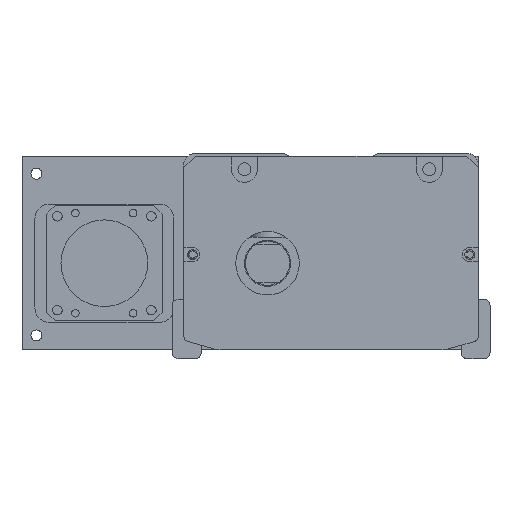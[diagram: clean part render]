
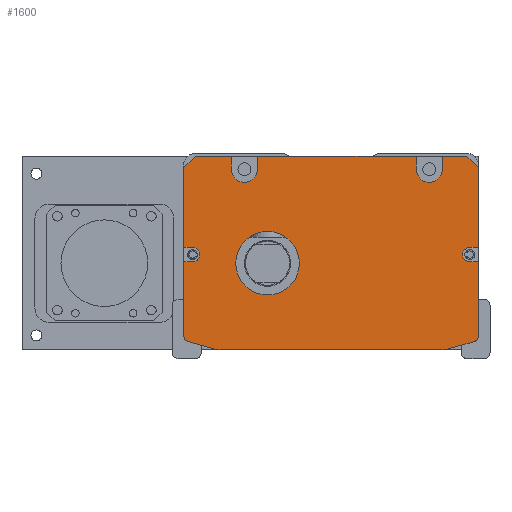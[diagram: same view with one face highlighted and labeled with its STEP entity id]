
A CAD part, front view. The second image highlights one B-rep face of the part: STEP entity #1600.
In plain terms, the highlighted planar face has unit normal (0, -1, 0).
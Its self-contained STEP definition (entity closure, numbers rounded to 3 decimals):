
#465=FACE_BOUND('',#3306,.T.);
#466=FACE_BOUND('',#3307,.T.);
#1600=ADVANCED_FACE('',(#465,#466),#2262,.F.);
#2262=PLANE('',#13297);
#3306=EDGE_LOOP('',(#5814,#5815,#5816,#5817,#5818,#5819,#5820,#5821,#5822,
#5823,#5824,#5825,#5826,#5827,#5828,#5829,#5830,#5831,#5832,#5833,#5834,
#5835,#5836,#5837,#5838,#5839,#5840,#5841));
#3307=EDGE_LOOP('',(#5842));
#4302=CIRCLE('',#13288,4.5);
#4303=CIRCLE('',#13289,4.5);
#4304=CIRCLE('',#13290,2.5);
#4305=CIRCLE('',#13291,2.);
#4306=CIRCLE('',#13292,10.);
#4307=CIRCLE('',#13293,10.);
#4308=CIRCLE('',#13294,2.);
#4309=CIRCLE('',#13295,2.5);
#4310=CIRCLE('',#13296,11.);
#5814=ORIENTED_EDGE('',*,*,#9591,.T.);
#5815=ORIENTED_EDGE('',*,*,#10102,.T.);
#5816=ORIENTED_EDGE('',*,*,#10103,.T.);
#5817=ORIENTED_EDGE('',*,*,#10104,.F.);
#5818=ORIENTED_EDGE('',*,*,#10105,.T.);
#5819=ORIENTED_EDGE('',*,*,#10106,.F.);
#5820=ORIENTED_EDGE('',*,*,#10107,.T.);
#5821=ORIENTED_EDGE('',*,*,#10108,.F.);
#5822=ORIENTED_EDGE('',*,*,#10109,.T.);
#5823=ORIENTED_EDGE('',*,*,#10110,.F.);
#5824=ORIENTED_EDGE('',*,*,#10111,.T.);
#5825=ORIENTED_EDGE('',*,*,#10112,.T.);
#5826=ORIENTED_EDGE('',*,*,#9609,.T.);
#5827=ORIENTED_EDGE('',*,*,#10113,.T.);
#5828=ORIENTED_EDGE('',*,*,#10114,.T.);
#5829=ORIENTED_EDGE('',*,*,#10115,.T.);
#5830=ORIENTED_EDGE('',*,*,#9605,.T.);
#5831=ORIENTED_EDGE('',*,*,#10116,.T.);
#5832=ORIENTED_EDGE('',*,*,#10117,.T.);
#5833=ORIENTED_EDGE('',*,*,#10118,.T.);
#5834=ORIENTED_EDGE('',*,*,#10119,.T.);
#5835=ORIENTED_EDGE('',*,*,#10120,.T.);
#5836=ORIENTED_EDGE('',*,*,#10121,.T.);
#5837=ORIENTED_EDGE('',*,*,#10122,.T.);
#5838=ORIENTED_EDGE('',*,*,#9595,.T.);
#5839=ORIENTED_EDGE('',*,*,#10123,.T.);
#5840=ORIENTED_EDGE('',*,*,#10124,.T.);
#5841=ORIENTED_EDGE('',*,*,#10125,.T.);
#5842=ORIENTED_EDGE('',*,*,#10126,.T.);
#8359=VERTEX_POINT('',#18272);
#8360=VERTEX_POINT('',#18274);
#8363=VERTEX_POINT('',#18280);
#8364=VERTEX_POINT('',#18282);
#8373=VERTEX_POINT('',#18301);
#8374=VERTEX_POINT('',#18303);
#8377=VERTEX_POINT('',#18309);
#8378=VERTEX_POINT('',#18311);
#8720=VERTEX_POINT('',#19350);
#8721=VERTEX_POINT('',#19352);
#8722=VERTEX_POINT('',#19354);
#8723=VERTEX_POINT('',#19356);
#8724=VERTEX_POINT('',#19358);
#8725=VERTEX_POINT('',#19360);
#8726=VERTEX_POINT('',#19362);
#8727=VERTEX_POINT('',#19364);
#8728=VERTEX_POINT('',#19366);
#8729=VERTEX_POINT('',#19368);
#8730=VERTEX_POINT('',#19371);
#8731=VERTEX_POINT('',#19373);
#8732=VERTEX_POINT('',#19376);
#8733=VERTEX_POINT('',#19378);
#8734=VERTEX_POINT('',#19380);
#8735=VERTEX_POINT('',#19382);
#8736=VERTEX_POINT('',#19384);
#8737=VERTEX_POINT('',#19386);
#8738=VERTEX_POINT('',#19389);
#8739=VERTEX_POINT('',#19391);
#8740=VERTEX_POINT('',#19394);
#9591=EDGE_CURVE('',#8360,#8359,#11291,.T.);
#9595=EDGE_CURVE('',#8364,#8363,#11295,.T.);
#9605=EDGE_CURVE('',#8374,#8373,#11305,.T.);
#9609=EDGE_CURVE('',#8378,#8377,#11309,.T.);
#10102=EDGE_CURVE('',#8359,#8720,#11589,.T.);
#10103=EDGE_CURVE('',#8720,#8721,#11590,.T.);
#10104=EDGE_CURVE('',#8722,#8721,#11591,.T.);
#10105=EDGE_CURVE('',#8722,#8723,#4302,.T.);
#10106=EDGE_CURVE('',#8724,#8723,#11592,.T.);
#10107=EDGE_CURVE('',#8724,#8725,#11593,.T.);
#10108=EDGE_CURVE('',#8726,#8725,#11594,.T.);
#10109=EDGE_CURVE('',#8726,#8727,#4303,.T.);
#10110=EDGE_CURVE('',#8728,#8727,#11595,.T.);
#10111=EDGE_CURVE('',#8728,#8729,#11596,.T.);
#10112=EDGE_CURVE('',#8729,#8378,#11597,.T.);
#10113=EDGE_CURVE('',#8377,#8730,#11598,.T.);
#10114=EDGE_CURVE('',#8730,#8731,#4304,.T.);
#10115=EDGE_CURVE('',#8731,#8374,#11599,.T.);
#10116=EDGE_CURVE('',#8373,#8732,#4305,.T.);
#10117=EDGE_CURVE('',#8732,#8733,#11600,.T.);
#10118=EDGE_CURVE('',#8733,#8734,#4306,.T.);
#10119=EDGE_CURVE('',#8734,#8735,#11601,.T.);
#10120=EDGE_CURVE('',#8735,#8736,#4307,.T.);
#10121=EDGE_CURVE('',#8736,#8737,#11602,.T.);
#10122=EDGE_CURVE('',#8737,#8364,#4308,.T.);
#10123=EDGE_CURVE('',#8363,#8738,#11603,.T.);
#10124=EDGE_CURVE('',#8738,#8739,#4309,.T.);
#10125=EDGE_CURVE('',#8739,#8360,#11604,.T.);
#10126=EDGE_CURVE('',#8740,#8740,#4310,.T.);
#11291=LINE('',#18273,#12088);
#11295=LINE('',#18281,#12092);
#11305=LINE('',#18302,#12102);
#11309=LINE('',#18310,#12106);
#11589=LINE('',#19349,#12386);
#11590=LINE('',#19351,#12387);
#11591=LINE('',#19353,#12388);
#11592=LINE('',#19357,#12389);
#11593=LINE('',#19359,#12390);
#11594=LINE('',#19361,#12391);
#11595=LINE('',#19365,#12392);
#11596=LINE('',#19367,#12393);
#11597=LINE('',#19369,#12394);
#11598=LINE('',#19370,#12395);
#11599=LINE('',#19374,#12396);
#11600=LINE('',#19377,#12397);
#11601=LINE('',#19381,#12398);
#11602=LINE('',#19385,#12399);
#11603=LINE('',#19388,#12400);
#11604=LINE('',#19392,#12401);
#12088=VECTOR('',#14440,1.);
#12092=VECTOR('',#14444,1.);
#12102=VECTOR('',#14456,1.);
#12106=VECTOR('',#14460,1.);
#12386=VECTOR('',#15574,1.);
#12387=VECTOR('',#15575,1.);
#12388=VECTOR('',#15576,1.);
#12389=VECTOR('',#15579,1.);
#12390=VECTOR('',#15580,1.);
#12391=VECTOR('',#15581,1.);
#12392=VECTOR('',#15584,1.);
#12393=VECTOR('',#15585,1.);
#12394=VECTOR('',#15586,1.);
#12395=VECTOR('',#15587,1.);
#12396=VECTOR('',#15590,1.);
#12397=VECTOR('',#15593,1.);
#12398=VECTOR('',#15596,1.);
#12399=VECTOR('',#15599,1.);
#12400=VECTOR('',#15602,1.);
#12401=VECTOR('',#15605,1.);
#13288=AXIS2_PLACEMENT_3D('',#19355,#15577,#15578);
#13289=AXIS2_PLACEMENT_3D('',#19363,#15582,#15583);
#13290=AXIS2_PLACEMENT_3D('',#19372,#15588,#15589);
#13291=AXIS2_PLACEMENT_3D('',#19375,#15591,#15592);
#13292=AXIS2_PLACEMENT_3D('',#19379,#15594,#15595);
#13293=AXIS2_PLACEMENT_3D('',#19383,#15597,#15598);
#13294=AXIS2_PLACEMENT_3D('',#19387,#15600,#15601);
#13295=AXIS2_PLACEMENT_3D('',#19390,#15603,#15604);
#13296=AXIS2_PLACEMENT_3D('',#19393,#15606,#15607);
#13297=AXIS2_PLACEMENT_3D('',#19395,#15608,#15609);
#14440=DIRECTION('',(0.,0.,1.));
#14444=DIRECTION('',(0.,0.,1.));
#14456=DIRECTION('',(0.,0.,-1.));
#14460=DIRECTION('',(0.,0.,-1.));
#15574=DIRECTION('',(-0.707,0.,0.707));
#15575=DIRECTION('',(-1.,0.,0.));
#15576=DIRECTION('',(0.,0.,1.));
#15577=DIRECTION('',(0.,1.,0.));
#15578=DIRECTION('',(0.,0.,1.));
#15579=DIRECTION('',(0.,0.,-1.));
#15580=DIRECTION('',(-1.,0.,0.));
#15581=DIRECTION('',(0.,0.,1.));
#15582=DIRECTION('',(0.,1.,0.));
#15583=DIRECTION('',(0.,0.,1.));
#15584=DIRECTION('',(0.,0.,-1.));
#15585=DIRECTION('',(-1.,0.,0.));
#15586=DIRECTION('',(-0.707,0.,-0.707));
#15587=DIRECTION('',(1.,0.,0.));
#15588=DIRECTION('',(0.,1.,0.));
#15589=DIRECTION('',(0.,0.,1.));
#15590=DIRECTION('',(-1.,0.,0.));
#15591=DIRECTION('',(0.,-1.,0.));
#15592=DIRECTION('',(0.,0.,1.));
#15593=DIRECTION('',(0.963,0.,-0.269));
#15594=DIRECTION('',(0.,-1.,0.));
#15595=DIRECTION('',(0.,0.,1.));
#15596=DIRECTION('',(1.,0.,0.));
#15597=DIRECTION('',(0.,-1.,0.));
#15598=DIRECTION('',(0.,0.,-1.));
#15599=DIRECTION('',(0.963,0.,0.269));
#15600=DIRECTION('',(0.,-1.,0.));
#15601=DIRECTION('',(0.,0.,-1.));
#15602=DIRECTION('',(-1.,0.,0.));
#15603=DIRECTION('',(0.,1.,0.));
#15604=DIRECTION('',(0.,0.,1.));
#15605=DIRECTION('',(1.,0.,0.));
#15606=DIRECTION('',(0.,1.,0.));
#15607=DIRECTION('',(0.,0.,1.));
#15608=DIRECTION('',(0.,1.,0.));
#15609=DIRECTION('',(1.,0.,0.));
#18272=CARTESIAN_POINT('',(47.808,82.5,-5.));
#18273=CARTESIAN_POINT('',(47.808,82.5,-1.));
#18274=CARTESIAN_POINT('',(47.808,82.5,-32.5));
#18280=CARTESIAN_POINT('',(47.808,82.5,-37.5));
#18281=CARTESIAN_POINT('',(47.808,82.5,-1.));
#18282=CARTESIAN_POINT('',(47.808,82.5,-63.212));
#18301=CARTESIAN_POINT('',(-54.192,82.5,-63.212));
#18302=CARTESIAN_POINT('',(-54.192,82.5,-62.));
#18303=CARTESIAN_POINT('',(-54.192,82.5,-37.5));
#18309=CARTESIAN_POINT('',(-54.192,82.5,-32.5));
#18310=CARTESIAN_POINT('',(-54.192,82.5,-62.));
#18311=CARTESIAN_POINT('',(-54.192,82.5,-5.));
#19349=CARTESIAN_POINT('',(43.808,82.5,-1.));
#19350=CARTESIAN_POINT('',(43.808,82.5,-1.));
#19351=CARTESIAN_POINT('',(-3.192,82.5,-1.));
#19352=CARTESIAN_POINT('',(35.308,82.5,-1.));
#19353=CARTESIAN_POINT('',(35.308,82.5,-1.));
#19354=CARTESIAN_POINT('',(35.308,82.5,-5.5));
#19355=CARTESIAN_POINT('',(30.808,82.5,-5.5));
#19356=CARTESIAN_POINT('',(26.308,82.5,-5.5));
#19357=CARTESIAN_POINT('',(26.308,82.5,-1.));
#19358=CARTESIAN_POINT('',(26.308,82.5,-1.));
#19359=CARTESIAN_POINT('',(-54.192,82.5,-1.));
#19360=CARTESIAN_POINT('',(-28.692,82.5,-1.));
#19361=CARTESIAN_POINT('',(-28.692,82.5,-3.5));
#19362=CARTESIAN_POINT('',(-28.692,82.5,-5.5));
#19363=CARTESIAN_POINT('',(-33.192,82.5,-5.5));
#19364=CARTESIAN_POINT('',(-37.692,82.5,-5.5));
#19365=CARTESIAN_POINT('',(-37.692,82.5,-1.));
#19366=CARTESIAN_POINT('',(-37.692,82.5,-1.));
#19367=CARTESIAN_POINT('',(-54.192,82.5,-1.));
#19368=CARTESIAN_POINT('',(-50.192,82.5,-1.));
#19369=CARTESIAN_POINT('',(-54.192,82.5,-5.));
#19370=CARTESIAN_POINT('',(-3.192,82.5,-32.5));
#19371=CARTESIAN_POINT('',(-51.192,82.5,-32.5));
#19372=CARTESIAN_POINT('',(-51.192,82.5,-35.));
#19373=CARTESIAN_POINT('',(-51.192,82.5,-37.5));
#19374=CARTESIAN_POINT('',(-3.192,82.5,-37.5));
#19375=CARTESIAN_POINT('',(-52.192,82.5,-63.212));
#19376=CARTESIAN_POINT('',(-52.731,82.5,-65.138));
#19377=CARTESIAN_POINT('',(-55.807,82.5,-64.279));
#19378=CARTESIAN_POINT('',(-43.809,82.5,-67.631));
#19379=CARTESIAN_POINT('',(-41.118,82.5,-58.));
#19380=CARTESIAN_POINT('',(-41.118,82.5,-68.));
#19381=CARTESIAN_POINT('',(-54.692,82.5,-68.));
#19382=CARTESIAN_POINT('',(34.733,82.5,-68.));
#19383=CARTESIAN_POINT('',(34.733,82.5,-58.));
#19384=CARTESIAN_POINT('',(37.424,82.5,-67.631));
#19385=CARTESIAN_POINT('',(49.422,82.5,-64.279));
#19386=CARTESIAN_POINT('',(46.346,82.5,-65.138));
#19387=CARTESIAN_POINT('',(45.808,82.5,-63.212));
#19388=CARTESIAN_POINT('',(-3.192,82.5,-37.5));
#19389=CARTESIAN_POINT('',(44.808,82.5,-37.5));
#19390=CARTESIAN_POINT('',(44.808,82.5,-35.));
#19391=CARTESIAN_POINT('',(44.808,82.5,-32.5));
#19392=CARTESIAN_POINT('',(-3.192,82.5,-32.5));
#19393=CARTESIAN_POINT('',(-25.192,82.5,-38.));
#19394=CARTESIAN_POINT('',(-25.192,82.5,-27.));
#19395=CARTESIAN_POINT('',(-3.192,82.5,-1.));
